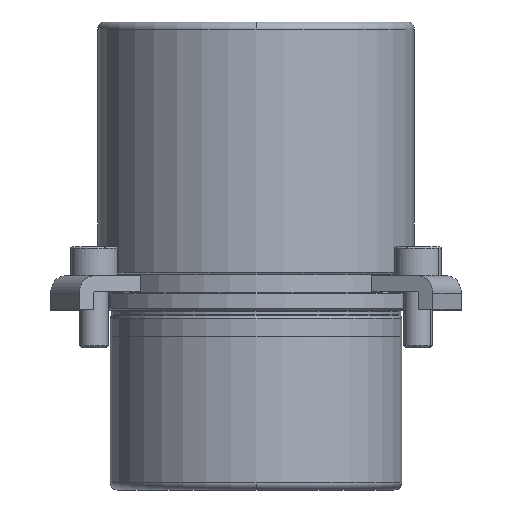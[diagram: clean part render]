
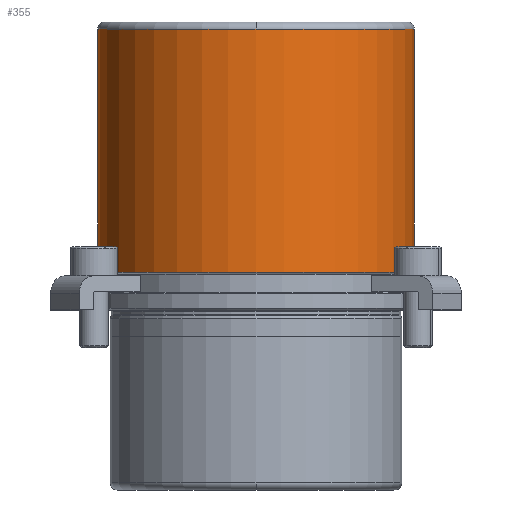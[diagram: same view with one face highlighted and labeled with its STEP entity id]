
A CAD part, front view. The second image highlights one B-rep face of the part: STEP entity #355.
In plain terms, the highlighted cylindrical face has radius 44 mm (diameter 88 mm), a partial arc.
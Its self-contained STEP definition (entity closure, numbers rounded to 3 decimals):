
#269=CARTESIAN_POINT('',(0.0,-44.,78.));
#270=VERTEX_POINT('',#269);
#296=CARTESIAN_POINT('',(-44.0,0.,78.0));
#297=VERTEX_POINT('',#296);
#305=CARTESIAN_POINT('',(0.0,0.,78.0));
#306=DIRECTION('',(0.0,0.0,1.0));
#307=DIRECTION('',(1.0,0.0,0.0));
#308=AXIS2_PLACEMENT_3D('',#305,#306,#307);
#309=CIRCLE('',#308,44.0);
#310=EDGE_CURVE('',#297,#270,#309,.T.);
#315=CARTESIAN_POINT('',(0.0,0.,44.25));
#316=DIRECTION('',(0.0,0.,1.0));
#317=DIRECTION('',(1.0,0.0,0.0));
#318=AXIS2_PLACEMENT_3D('',#315,#316,#317);
#319=CYLINDRICAL_SURFACE('',#318,44.0);
#320=CARTESIAN_POINT('',(44.0,0.,78.0));
#321=VERTEX_POINT('',#320);
#322=CARTESIAN_POINT('',(44.0,0.,10.5));
#323=VERTEX_POINT('',#322);
#324=CARTESIAN_POINT('',(44.0,0.,78.0));
#325=DIRECTION('',(0.0,0.0,-1.0));
#326=VECTOR('',#325,67.5);
#327=LINE('',#324,#326);
#328=EDGE_CURVE('',#321,#323,#327,.T.);
#329=ORIENTED_EDGE('',*,*,#328,.F.);
#330=CARTESIAN_POINT('',(0.0,0.,78.0));
#331=DIRECTION('',(0.0,0.0,1.0));
#332=DIRECTION('',(1.0,0.0,0.0));
#333=AXIS2_PLACEMENT_3D('',#330,#331,#332);
#334=CIRCLE('',#333,44.0);
#335=EDGE_CURVE('',#270,#321,#334,.T.);
#336=ORIENTED_EDGE('',*,*,#335,.F.);
#337=ORIENTED_EDGE('',*,*,#310,.F.);
#338=CARTESIAN_POINT('',(-44.0,0.,10.5));
#339=VERTEX_POINT('',#338);
#340=CARTESIAN_POINT('',(-44.0,0.,78.0));
#341=DIRECTION('',(0.0,0.0,-1.0));
#342=VECTOR('',#341,67.5);
#343=LINE('',#340,#342);
#344=EDGE_CURVE('',#297,#339,#343,.T.);
#345=ORIENTED_EDGE('',*,*,#344,.T.);
#346=CARTESIAN_POINT('',(0.0,0.,10.5));
#347=DIRECTION('',(0.0,0.0,1.0));
#348=DIRECTION('',(1.0,0.0,0.0));
#349=AXIS2_PLACEMENT_3D('',#346,#347,#348);
#350=CIRCLE('',#349,44.0);
#351=EDGE_CURVE('',#339,#323,#350,.T.);
#352=ORIENTED_EDGE('',*,*,#351,.T.);
#353=EDGE_LOOP('',(#329,#336,#337,#345,#352));
#354=FACE_OUTER_BOUND('',#353,.T.);
#355=ADVANCED_FACE('',(#354),#319,.T.);
